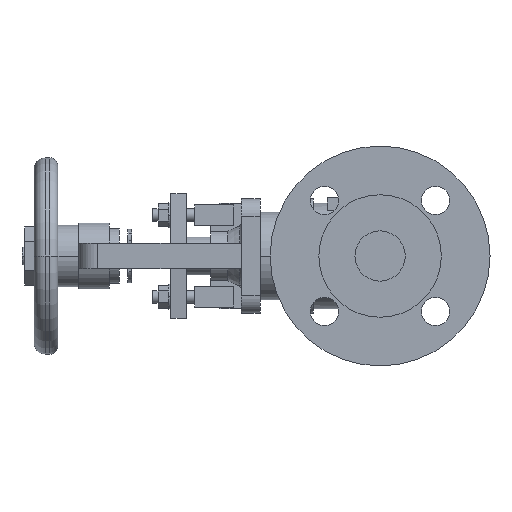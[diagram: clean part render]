
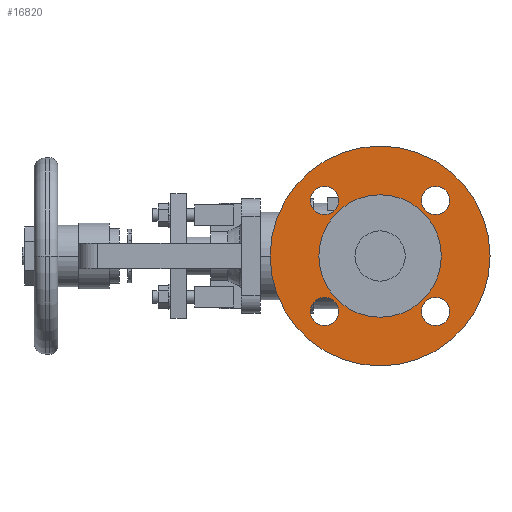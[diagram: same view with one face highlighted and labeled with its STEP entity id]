
A CAD part, left-side view. The second image highlights one B-rep face of the part: STEP entity #16820.
In plain terms, the highlighted planar face has unit normal (-1, 0, 0).
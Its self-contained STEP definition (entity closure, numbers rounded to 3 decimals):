
#7880=CARTESIAN_POINT('',(2.,0.,-70.));
#7890=VERTEX_POINT('',#7880);
#8050=CARTESIAN_POINT('',(2.,0.,70.));
#8060=VERTEX_POINT('',#8050);
#8090=CARTESIAN_POINT('',(2.,0.,0.));
#8100=DIRECTION('',(1.,0.,0.));
#8110=DIRECTION('',(0.,0.,-1.));
#8120=AXIS2_PLACEMENT_3D('',#8090,#8100,#8110);
#8130=CIRCLE('',#8120,70.);
#8140=EDGE_CURVE('',#7890,#8060,#8130,.T.);
#8370=CARTESIAN_POINT('',(2.,35.355,-26.355));
#8380=VERTEX_POINT('',#8370);
#8540=CARTESIAN_POINT('',(2.,35.355,-44.355));
#8550=VERTEX_POINT('',#8540);
#8580=CARTESIAN_POINT('',(2.,35.355,-35.355));
#8590=DIRECTION('',(-1.,0.,0.));
#8600=DIRECTION('',(0.,0.,-1.));
#8610=AXIS2_PLACEMENT_3D('',#8580,#8590,#8600);
#8620=CIRCLE('',#8610,9.);
#8630=EDGE_CURVE('',#8380,#8550,#8620,.T.);
#8860=CARTESIAN_POINT('',(2.,-35.355,-26.355));
#8870=VERTEX_POINT('',#8860);
#8900=CARTESIAN_POINT('',(2.,-35.355,-35.355));
#8910=DIRECTION('',(-1.,0.,0.));
#8920=DIRECTION('',(0.,0.,-1.));
#8930=AXIS2_PLACEMENT_3D('',#8900,#8910,#8920);
#8940=CIRCLE('',#8930,9.);
#8950=CARTESIAN_POINT('',(2.,-35.355,-44.355));
#8960=VERTEX_POINT('',#8950);
#8970=EDGE_CURVE('',#8960,#8870,#8940,.T.);
#9350=CARTESIAN_POINT('',(2.,35.355,44.355));
#9360=VERTEX_POINT('',#9350);
#9520=CARTESIAN_POINT('',(2.,35.355,26.355));
#9530=VERTEX_POINT('',#9520);
#9560=CARTESIAN_POINT('',(2.,35.355,35.355));
#9570=DIRECTION('',(-1.,0.,0.));
#9580=DIRECTION('',(0.,0.,-1.));
#9590=AXIS2_PLACEMENT_3D('',#9560,#9570,#9580);
#9600=CIRCLE('',#9590,9.);
#9610=EDGE_CURVE('',#9360,#9530,#9600,.T.);
#9840=CARTESIAN_POINT('',(2.,-35.355,44.355));
#9850=VERTEX_POINT('',#9840);
#9880=CARTESIAN_POINT('',(2.,-35.355,35.355));
#9890=DIRECTION('',(-1.,0.,0.));
#9900=DIRECTION('',(0.,0.,-1.));
#9910=AXIS2_PLACEMENT_3D('',#9880,#9890,#9900);
#9920=CIRCLE('',#9910,9.);
#9930=CARTESIAN_POINT('',(2.,-35.355,26.355));
#9940=VERTEX_POINT('',#9930);
#9950=EDGE_CURVE('',#9940,#9850,#9920,.T.);
#10330=CARTESIAN_POINT('',(2.,-39.,0.));
#10340=VERTEX_POINT('',#10330);
#10500=CARTESIAN_POINT('',(2.,39.,0.));
#10510=VERTEX_POINT('',#10500);
#10540=CARTESIAN_POINT('',(2.,0.,0.));
#10550=DIRECTION('',(-1.,0.,0.));
#10560=DIRECTION('',(0.,1.,0.));
#10570=AXIS2_PLACEMENT_3D('',#10540,#10550,#10560);
#10580=CIRCLE('',#10570,39.);
#10590=EDGE_CURVE('',#10340,#10510,#10580,.T.);
#16470=CARTESIAN_POINT('',(2.,54.5,0.));
#16480=DIRECTION('',(1.,0.,0.));
#16490=DIRECTION('',(0.,-1.,0.));
#16500=AXIS2_PLACEMENT_3D('',#16470,#16480,#16490);
#16510=PLANE('',#16500);
#16520=EDGE_CURVE('',#10510,#10340,#10580,.T.);
#16530=ORIENTED_EDGE('',*,*,#16520,.F.);
#16540=ORIENTED_EDGE('',*,*,#10590,.F.);
#16550=EDGE_LOOP('',(#16540,#16530));
#16560=FACE_BOUND('',#16550,.T.);
#16570=EDGE_CURVE('',#8060,#7890,#8130,.T.);
#16580=ORIENTED_EDGE('',*,*,#16570,.F.);
#16590=ORIENTED_EDGE('',*,*,#8140,.F.);
#16600=EDGE_LOOP('',(#16590,#16580));
#16610=FACE_OUTER_BOUND('',#16600,.T.);
#16620=EDGE_CURVE('',#8550,#8380,#8620,.T.);
#16630=ORIENTED_EDGE('',*,*,#16620,.F.);
#16640=ORIENTED_EDGE('',*,*,#8630,.F.);
#16650=EDGE_LOOP('',(#16640,#16630));
#16660=FACE_BOUND('',#16650,.T.);
#16670=EDGE_CURVE('',#8870,#8960,#8940,.T.);
#16680=ORIENTED_EDGE('',*,*,#16670,.F.);
#16690=ORIENTED_EDGE('',*,*,#8970,.F.);
#16700=EDGE_LOOP('',(#16690,#16680));
#16710=FACE_BOUND('',#16700,.T.);
#16720=EDGE_CURVE('',#9530,#9360,#9600,.T.);
#16730=ORIENTED_EDGE('',*,*,#16720,.F.);
#16740=ORIENTED_EDGE('',*,*,#9610,.F.);
#16750=EDGE_LOOP('',(#16740,#16730));
#16760=FACE_BOUND('',#16750,.T.);
#16770=EDGE_CURVE('',#9850,#9940,#9920,.T.);
#16780=ORIENTED_EDGE('',*,*,#16770,.F.);
#16790=ORIENTED_EDGE('',*,*,#9950,.F.);
#16800=EDGE_LOOP('',(#16790,#16780));
#16810=FACE_BOUND('',#16800,.T.);
#16820=ADVANCED_FACE('',(#16560,#16610,#16660,#16710,#16760,#16810),
#16510,.F.);
